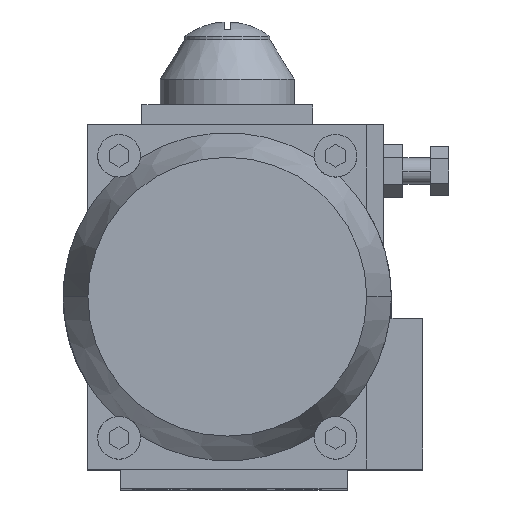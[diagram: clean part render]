
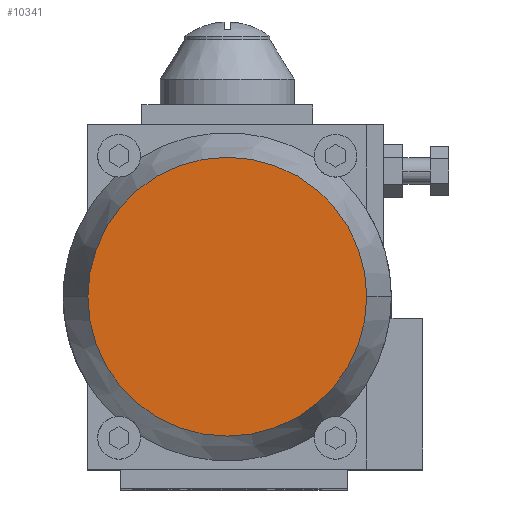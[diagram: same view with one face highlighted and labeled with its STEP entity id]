
A CAD part, top view. The second image highlights one B-rep face of the part: STEP entity #10341.
In plain terms, the highlighted planar face has unit normal (0, 0, 1).
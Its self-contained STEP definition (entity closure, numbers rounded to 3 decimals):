
#9374=CARTESIAN_POINT('',(0.,0.,131.5));
#9375=DIRECTION('',(0.,0.,-1.));
#9376=DIRECTION('',(-1.,0.,0.));
#9377=AXIS2_PLACEMENT_3D('',#9374,#9375,#9376);
#9379=CARTESIAN_POINT('',(0.,0.,131.5));
#9380=DIRECTION('',(0.,0.,-1.));
#9381=DIRECTION('',(1.,0.,0.));
#9382=AXIS2_PLACEMENT_3D('',#9379,#9380,#9381);
#9748=CARTESIAN_POINT('',(-42.5,0.,131.5));
#9749=CARTESIAN_POINT('',(42.5,0.,131.5));
#9750=VERTEX_POINT('',#9748);
#9751=VERTEX_POINT('',#9749);
#10332=CARTESIAN_POINT('',(0.,0.,131.5));
#10333=DIRECTION('',(0.,0.,1.));
#10334=DIRECTION('',(1.,0.,0.));
#10335=AXIS2_PLACEMENT_3D('',#10332,#10333,#10334);
#10336=PLANE('',#10335);
#10337=ORIENTED_EDGE('',*,*,#10052,.T.);
#10338=ORIENTED_EDGE('',*,*,#10321,.T.);
#10339=EDGE_LOOP('',(#10337,#10338));
#10340=FACE_OUTER_BOUND('',#10339,.F.);
#10341=ADVANCED_FACE('',(#10340),#10336,.T.);
#9378=CIRCLE('',#9377,42.5);
#9383=CIRCLE('',#9382,42.5);
#10052=EDGE_CURVE('',#9750,#9751,#9378,.T.);
#10321=EDGE_CURVE('',#9751,#9750,#9383,.T.);
